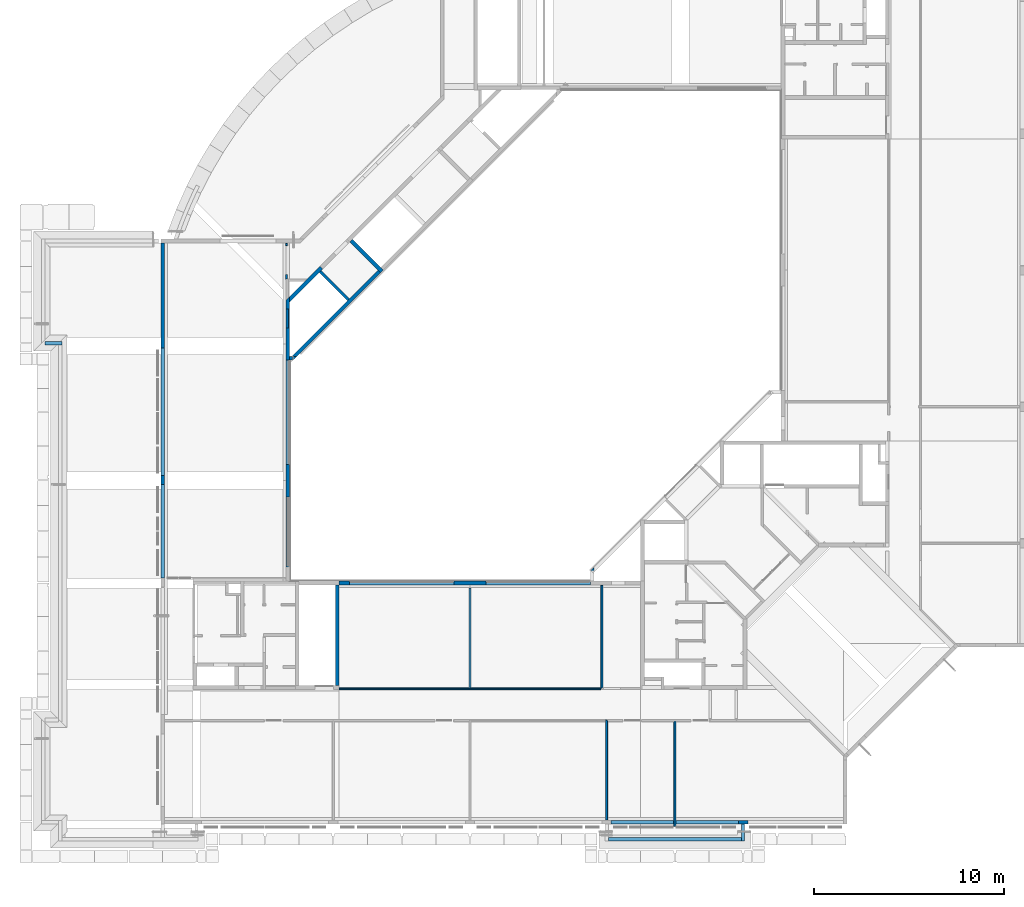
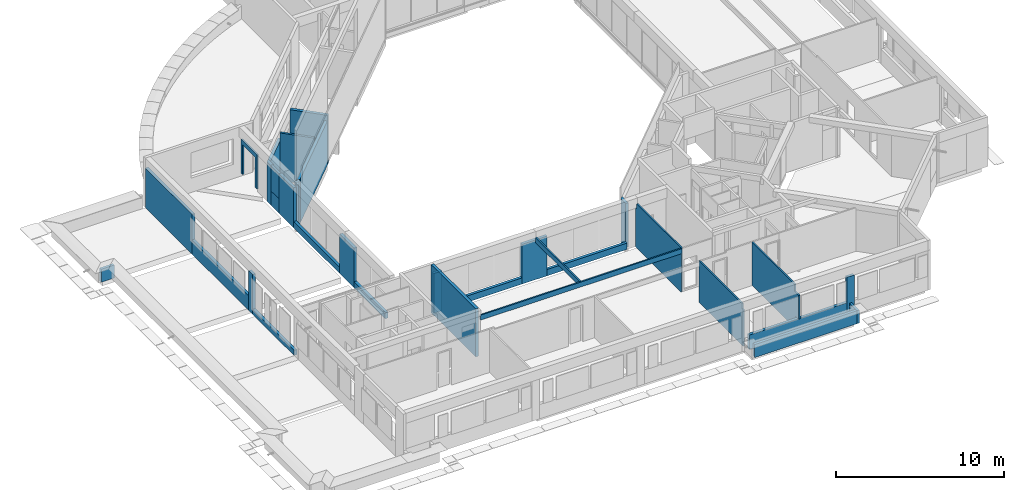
# One storey, part 11 of 38: 34 walls.
"""IFC4X3_ADD2 building model written with IfcOpenShell, lengths in millimetres."""

from ifc_helpers import new_model, si_unit, direction, frame, frame_2d, origin_with_axes, origin_2d_with_axis, place, context, subcontext, project, spatial, polyline, rectangle, outline, extrude, source, transform, mapped, material, type_object, type_shapes, element, save


model = new_model("IFC4X3_ADD2")

# Units and contexts
model_context = context("Model", 3, precision=1e-05, world=origin_with_axes(), true_north=direction((0.0, 1.0)))
body_context = subcontext(model_context, "Body", "Model", "MODEL_VIEW")
ifc_project = project(units=[si_unit("LENGTHUNIT", "METRE", prefix="MILLI"), si_unit("AREAUNIT", "SQUARE_METRE"), si_unit("VOLUMEUNIT", "CUBIC_METRE"), si_unit("PLANEANGLEUNIT", "RADIAN"), si_unit("TIMEUNIT", "SECOND"), si_unit("MASSUNIT", "GRAM")], contexts=[model_context])

# Site, building, storey
site_placement = place(None, origin_with_axes())
site = spatial("IfcSite", under=ifc_project, at=site_placement, Name="Site", CompositionType="ELEMENT")
building_placement = place(site_placement, origin_with_axes())
building = spatial("IfcBuilding", under=site, at=building_placement, Name="IFC Building Story")
storey_placement = place(building_placement, frame((0.0, 0.0, 10800.0), z_axis=(0.0, 0.0, 1.0), x_axis=(1.0, 0.0, 0.0)))
storey = spatial("IfcBuildingStorey", under=building, at=storey_placement, Name="030", Elevation=10800.0)

# Walls
ifc_material_1 = material(Name="BB_Beton_Bestaand")
wall_type_1 = type_object("IfcWallType", Name="BB_Beton_Bestaand 200", PredefinedType="NOTDEFINED", material=ifc_material_1)
wall_1_placement = place(storey_placement, origin_with_axes())
element("IfcWall", 1, at=wall_1_placement, inside=storey, type_object=wall_type_1, Name="Basic Wall:BB_XX_Wand uit beton, 200 mm", ObjectType="Basic Wall:BB_XX_Wand uit beton, 200 mm", PredefinedType="SOLIDWALL", context=body_context, shape_type="SweptSolid", body=[
    extrude(rectangle(XDim=5300.00406588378, YDim=200.0, at=frame_2d((0.0, 0.0), x_axis=(0.0, 1.0))), frame((-36100.0, 9850.002032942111, -80.0), z_axis=(0.0, 0.0, 1.0), x_axis=(1.0, 0.0, 0.0)), (0.0, 0.0, 1.0), 3480.0),
])
wall_2_placement = place(storey_placement, origin_with_axes())
element("IfcWall", 2, at=wall_2_placement, inside=storey, type_object=wall_type_1, Name="Basic Wall:BB_XX_Wand uit beton, 200 mm", ObjectType="Basic Wall:BB_XX_Wand uit beton, 200 mm", PredefinedType="SOLIDWALL", context=body_context, shape_type="SweptSolid", body=[
    extrude(rectangle(XDim=2299.999999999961, YDim=199.9999999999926, at=frame_2d((0.0, 0.0), x_axis=(0.707106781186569, -0.707106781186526))), frame((-34551.52543263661, 29835.12320212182, -200.0), z_axis=(0.0, 0.0, 1.0), x_axis=(1.0, 0.0, 0.0)), (0.0, 0.0, 1.0), 3600.0),
])
wall_3_placement = place(storey_placement, origin_with_axes())
element("IfcWall", 3, at=wall_3_placement, inside=storey, type_object=wall_type_1, Name="Basic Wall:BB_XX_Wand uit beton, 200 mm", ObjectType="Basic Wall:BB_XX_Wand uit beton, 200 mm", PredefinedType="SOLIDWALL", context=body_context, shape_type="SweptSolid", body=[
    extrude(outline(polyline([(-838.7978912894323, -697.3765350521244), (768.0872131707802, 909.5085694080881), (909.5085694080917, 768.0872131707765), (-838.7978912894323, -980.2192475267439), (-838.7978912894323, -697.3765350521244)])), frame((-37766.20210871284, 28388.21347901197, -200.0), z_axis=(0.0, 0.0, 1.0), x_axis=(1.0, 0.0, 0.0)), (0.0, 0.0, 1.0), 2880.0),
])
wall_type_2 = type_object("IfcWallType", Name="BB_Beton_Bestaand 190", PredefinedType="NOTDEFINED", material=ifc_material_1)
wall_4_placement = place(storey_placement, origin_with_axes())
element("IfcWall", 4, at=wall_4_placement, inside=storey, type_object=wall_type_2, Name="Basic Wall:BB_XX_Wand uit beton, 190 mm", ObjectType="Basic Wall:BB_XX_Wand uit beton, 190 mm", PredefinedType="SOLIDWALL", context=body_context, shape_type="SweptSolid", body=[
    extrude(rectangle(XDim=489.9999999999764, YDim=190.0, at=origin_2d_with_axis()), frame((-14700.00000000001, 0.0, -200.0), z_axis=(0.0, 0.0, 1.0), x_axis=(1.0, 0.0, 0.0)), (0.0, 0.0, 1.0), 2879.99999999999),
])
wall_5_placement = place(storey_placement, origin_with_axes())
element("IfcWall", 5, at=wall_5_placement, inside=storey, type_object=wall_type_2, Name="Basic Wall:BB_XX_Wand uit beton, 190 mm", ObjectType="Basic Wall:BB_XX_Wand uit beton, 190 mm", PredefinedType="SOLIDWALL", context=body_context, shape_type="SweptSolid", body=[
    extrude(rectangle(XDim=489.9999999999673, YDim=189.9999999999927, at=frame_2d((0.0, 0.0), x_axis=(0.0, 1.0))), frame((-45285.0, 18029.99999999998, -200.0), z_axis=(0.0, 0.0, 1.0), x_axis=(1.0, 0.0, 0.0)), (0.0, 0.0, 1.0), 2879.99999999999),
])
wall_6_placement = place(storey_placement, origin_with_axes())
element("IfcWall", 6, at=wall_6_placement, inside=storey, type_object=wall_type_2, Name="Basic Wall:BB_XX_Wand uit beton, 190 mm", ObjectType="Basic Wall:BB_XX_Wand uit beton, 190 mm", PredefinedType="SOLIDWALL", context=body_context, shape_type="SweptSolid", body=[
    extrude(rectangle(XDim=5550.000000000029, YDim=189.9999999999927, at=frame_2d((0.0, 0.0), x_axis=(0.0, 1.0))), frame((-45285.0, 27760.00000000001, -200.0), z_axis=(0.0, 0.0, 1.0), x_axis=(1.0, 0.0, 0.0)), (0.0, 0.0, 1.0), 2879.99999999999),
])
wall_7_placement = place(storey_placement, origin_with_axes())
element("IfcWall", 7, at=wall_7_placement, inside=storey, type_object=wall_type_2, Name="Basic Wall:BB_XX_Wand uit beton, 190 mm", ObjectType="Basic Wall:BB_XX_Wand uit beton, 190 mm", PredefinedType="SOLIDWALL", context=body_context, shape_type="SweptSolid", body=[
    extrude(rectangle(XDim=4909.99999999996, YDim=189.9999999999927, at=frame_2d((0.0, 0.0), x_axis=(0.0, 1.0))), frame((-45285.0, 15329.99999999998, -200.0), z_axis=(0.0, 0.0, 1.0), x_axis=(1.0, 0.0, 0.0)), (0.0, 0.0, 1.0), 370.000000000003),
])
wall_8_placement = place(storey_placement, origin_with_axes())
element("IfcWall", 8, at=wall_8_placement, inside=storey, type_object=wall_type_2, Name="Basic Wall:BB_XX_Wand uit beton, 190 mm", ObjectType="Basic Wall:BB_XX_Wand uit beton, 190 mm", PredefinedType="SOLIDWALL", context=body_context, shape_type="SweptSolid", body=[
    extrude(rectangle(XDim=6710.000000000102, YDim=189.9999999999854, at=frame_2d((0.0, 0.0), x_axis=(0.0, 1.0))), frame((-45285.0, 21630.00000000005, -200.0), z_axis=(0.0, 0.0, 1.0), x_axis=(1.0, 0.0, 0.0)), (0.0, 0.0, 1.0), 1040.0),
])
wall_9_placement = place(storey_placement, origin_with_axes())
element("IfcWall", 9, at=wall_9_placement, inside=storey, type_object=wall_type_2, Name="Basic Wall:BB_XX_Wand uit beton, 190 mm", ObjectType="Basic Wall:BB_XX_Wand uit beton, 190 mm", PredefinedType="SOLIDWALL", context=body_context, shape_type="SweptSolid", body=[
    extrude(rectangle(XDim=6710.000000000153, YDim=190.0, at=origin_2d_with_axis()), frame((-18300.00000000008, 0.0, -200.0), z_axis=(0.0, 0.0, 1.0), x_axis=(1.0, 0.0, 0.0)), (0.0, 0.0, 1.0), 1040.0),
])
wall_10_placement = place(storey_placement, origin_with_axes())
element("IfcWall", 10, at=wall_10_placement, inside=storey, type_object=wall_type_2, Name="Basic Wall:BB_XX_Wand uit beton, 190 mm", ObjectType="Basic Wall:BB_XX_Wand uit beton, 190 mm", PredefinedType="SOLIDWALL", context=body_context, shape_type="SweptSolid", body=[
    extrude(rectangle(XDim=1710.0, YDim=190.0, at=frame_2d((0.0, 0.0), x_axis=(0.0, 1.0))), frame((-38700.0, 18000.0, -200.0), z_axis=(0.0, 0.0, 1.0), x_axis=(1.0, 0.0, 0.0)), (0.0, 0.0, 1.0), 2880.0),
])
wall_11_placement = place(storey_placement, origin_with_axes())
element("IfcWall", 11, at=wall_11_placement, inside=storey, type_object=wall_type_2, Name="Basic Wall:BB_XX_Wand uit beton, 190 mm", ObjectType="Basic Wall:BB_XX_Wand uit beton, 190 mm", PredefinedType="SOLIDWALL", context=body_context, shape_type="SweptSolid", body=[
    extrude(rectangle(XDim=1710.0, YDim=190.0, at=frame_2d((0.0, 0.0), x_axis=(0.0, 1.0))), frame((-38700.0, 25200.0, -200.0), z_axis=(0.0, 0.0, 1.0), x_axis=(1.0, 0.0, 0.0)), (0.0, 0.0, 1.0), 2880.0),
])
wall_12_placement = place(storey_placement, origin_with_axes())
element("IfcWall", 12, at=wall_12_placement, inside=storey, type_object=wall_type_2, Name="Basic Wall:BB_XX_Wand uit beton, 190 mm", ObjectType="Basic Wall:BB_XX_Wand uit beton, 190 mm", PredefinedType="SOLIDWALL", context=body_context, shape_type="SweptSolid", body=[
    extrude(rectangle(XDim=990.0000000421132, YDim=190.0, at=frame_2d((0.0, 0.0), x_axis=(0.0, 1.0))), frame((-38700.0, 26549.99999997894, -200.0), z_axis=(0.0, 0.0, 1.0), x_axis=(1.0, 0.0, 0.0)), (0.0, 0.0, 1.0), 1040.0),
])
wall_13_placement = place(storey_placement, origin_with_axes())
element("IfcWall", 13, at=wall_13_placement, inside=storey, type_object=wall_type_2, Name="Basic Wall:BB_XX_Wand uit beton, 190 mm", ObjectType="Basic Wall:BB_XX_Wand uit beton, 190 mm", PredefinedType="SOLIDWALL", context=body_context, shape_type="SweptSolid", body=[
    extrude(outline(polyline([(-95.0, -275.4184719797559), (-95.0, 180.4184719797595), (95.0, 370.4184719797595), (95.0, -275.4184719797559), (-95.0, -275.4184719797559)])), frame((-38700.0, 27320.41847198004, -200.0), z_axis=(0.0, 0.0, 1.0), x_axis=(1.0, 0.0, 0.0)), (0.0, 0.0, 1.0), 2880.0),
])
wall_14_placement = place(storey_placement, origin_with_axes())
element("IfcWall", 14, at=wall_14_placement, inside=storey, type_object=wall_type_2, Name="Basic Wall:BB_XX_Wand uit beton, 190 mm", ObjectType="Basic Wall:BB_XX_Wand uit beton, 190 mm", PredefinedType="SOLIDWALL", context=body_context, shape_type="SweptSolid", body=[
    extrude(rectangle(XDim=554.9999999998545, YDim=190.0, at=origin_2d_with_axis()), frame((-35722.50000000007, 12600.004065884, -200.0), z_axis=(0.0, 0.0, 1.0), x_axis=(1.0, 0.0, 0.0)), (0.0, 0.0, 1.0), 2880.0),
])
wall_15_placement = place(storey_placement, origin_with_axes())
element("IfcWall", 15, at=wall_15_placement, inside=storey, type_object=wall_type_2, Name="Basic Wall:BB_XX_Wand uit beton, 190 mm", ObjectType="Basic Wall:BB_XX_Wand uit beton, 190 mm", PredefinedType="SOLIDWALL", context=body_context, shape_type="SweptSolid", body=[
    extrude(rectangle(XDim=1709.999999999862, YDim=190.0, at=origin_2d_with_axis()), frame((-29100.0, 12600.004065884, -200.0), z_axis=(0.0, 0.0, 1.0), x_axis=(1.0, 0.0, 0.0)), (0.0, 0.0, 1.0), 2880.0),
])
wall_16_placement = place(storey_placement, origin_with_axes())
element("IfcWall", 16, at=wall_16_placement, inside=storey, type_object=wall_type_2, Name="Basic Wall:BB_XX_Wand uit beton, 190 mm", ObjectType="Basic Wall:BB_XX_Wand uit beton, 190 mm", PredefinedType="SOLIDWALL", context=body_context, shape_type="SweptSolid", body=[
    extrude(rectangle(XDim=7010.0000000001, YDim=190.0, at=origin_2d_with_axis()), frame((-18299.99999999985, -900.0, -200.0), z_axis=(0.0, 0.0, 1.0), x_axis=(1.0, 0.0, 0.0)), (0.0, 0.0, 1.0), 940.000000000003),
])
wall_17_placement = place(storey_placement, origin_with_axes())
element("IfcWall", 17, at=wall_17_placement, inside=storey, type_object=wall_type_2, Name="Basic Wall:BB_XX_Wand uit beton, 190 mm", ObjectType="Basic Wall:BB_XX_Wand uit beton, 190 mm", PredefinedType="SOLIDWALL", context=body_context, shape_type="SweptSolid", body=[
    extrude(rectangle(XDim=3689.999999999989, YDim=190.0, at=frame_2d((0.0, 0.0), x_axis=(0.0, 1.0))), frame((-38700.0, 15300.00000000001, -200.0), z_axis=(0.0, 0.0, 1.0), x_axis=(1.0, 0.0, 0.0)), (0.0, 0.0, 1.0), 450.000000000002),
])
wall_18_placement = place(storey_placement, origin_with_axes())
element("IfcWall", 18, at=wall_18_placement, inside=storey, type_object=wall_type_2, Name="Basic Wall:BB_XX_Wand uit beton, 190 mm", ObjectType="Basic Wall:BB_XX_Wand uit beton, 190 mm", PredefinedType="SOLIDWALL", context=body_context, shape_type="SweptSolid", body=[
    extrude(rectangle(XDim=5489.999999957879, YDim=190.0, at=frame_2d((0.0, 0.0), x_axis=(0.0, 1.0))), frame((-38700.0, 21600.00000002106, -200.0), z_axis=(0.0, 0.0, 1.0), x_axis=(1.0, 0.0, 0.0)), (0.0, 0.0, 1.0), 450.000000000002),
])
wall_19_placement = place(storey_placement, origin_with_axes())
element("IfcWall", 19, at=wall_19_placement, inside=storey, type_object=wall_type_2, Name="Basic Wall:BB_XX_Wand uit beton, 190 mm", ObjectType="Basic Wall:BB_XX_Wand uit beton, 190 mm", PredefinedType="SOLIDWALL", context=body_context, shape_type="SweptSolid", body=[
    extrude(rectangle(XDim=5490.000000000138, YDim=190.0, at=origin_2d_with_axis()), frame((-25499.99999999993, 12600.004065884, -200.0), z_axis=(0.0, 0.0, 1.0), x_axis=(1.0, 0.0, 0.0)), (0.0, 0.0, 1.0), 450.000000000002),
])
wall_20_placement = place(storey_placement, origin_with_axes())
element("IfcWall", 20, at=wall_20_placement, inside=storey, type_object=wall_type_2, Name="Basic Wall:BB_XX_Wand uit beton, 190 mm", ObjectType="Basic Wall:BB_XX_Wand uit beton, 190 mm", PredefinedType="SOLIDWALL", context=body_context, shape_type="SweptSolid", body=[
    extrude(rectangle(XDim=5490.0, YDim=190.0, at=origin_2d_with_axis()), frame((-32700.0, 12600.004065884, -200.0), z_axis=(0.0, 0.0, 1.0), x_axis=(1.0, 0.0, 0.0)), (0.0, 0.0, 1.0), 450.000000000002),
])
wall_type_3 = type_object("IfcWallType", Name="BB_Beton_Bestaand 170", PredefinedType="NOTDEFINED", material=ifc_material_1)
wall_21_placement = place(storey_placement, origin_with_axes())
element("IfcWall", 21, at=wall_21_placement, inside=storey, type_object=wall_type_3, Name="Basic Wall:BB_XX_Wand uit beton, 170 mm", ObjectType="Basic Wall:BB_XX_Wand uit beton, 170 mm", PredefinedType="SOLIDWALL", context=body_context, shape_type="SweptSolid", body=[
    extrude(rectangle(XDim=900.000000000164, YDim=170.0, at=frame_2d((0.0, 0.0), x_axis=(0.0, 1.0))), frame((-14710.0, -545.0000000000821, -200.0), z_axis=(0.0, 0.0, 1.0), x_axis=(1.0, 0.0, 0.0)), (0.0, 0.0, 1.0), 940.000000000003),
])
ifc_material_2 = material(Name="BB_Metselwerk_Betonsteen")
wall_type_4 = type_object("IfcWallType", Name="BB_Metselwerk_Betonsteen 190", PredefinedType="NOTDEFINED", material=ifc_material_2)
wall_22_placement = place(storey_placement, origin_with_axes())
element("IfcWall", 22, at=wall_22_placement, inside=storey, type_object=wall_type_4, Name="Basic Wall:BB_03.09.24#03_Wand uit metselwerk, 190 mm", ObjectType="Basic Wall:BB_03.09.24#03_Wand uit metselwerk, 190 mm", PredefinedType="SOLIDWALL", context=body_context, shape_type="SweptSolid", body=[
    extrude(rectangle(XDim=899.9999999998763, YDim=190.0, at=origin_2d_with_axis()), frame((-51055.00000000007, 25250.0, -200.0), z_axis=(0.0, 0.0, 1.0), x_axis=(1.0, 0.0, 0.0)), (0.0, 0.0, 1.0), 940.000000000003),
])
wall_23_placement = place(storey_placement, origin_with_axes())
element("IfcWall", 23, at=wall_23_placement, inside=storey, type_object=wall_type_4, Name="Basic Wall:BB_03.09.24#03_Wand uit metselwerk, 190 mm", ObjectType="Basic Wall:BB_03.09.24#03_Wand uit metselwerk, 190 mm", PredefinedType="SOLIDWALL", context=body_context, shape_type="SweptSolid", body=[
    extrude(outline(polyline([(95.0, 424.8958182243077), (95.0, -329.8958182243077), (-95.0, -329.8958182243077), (-95.0, 234.8958182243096), (95.0, 424.8958182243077)])), frame((-22649.8526351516, 13024.89988410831, -200.0), z_axis=(0.0, 0.0, 1.0), x_axis=(1.0, 0.0, 0.0)), (0.0, 0.0, 1.0), 3199.99999975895),
])
wall_24_placement = place(storey_placement, origin_with_axes())
element("IfcWall", 24, at=wall_24_placement, inside=storey, type_object=wall_type_4, Name="Basic Wall:BB_03.09.24#05_Wand uit metselwerk_EI60, 190 mm", ObjectType="Basic Wall:BB_03.09.24#05_Wand uit metselwerk_EI60, 190 mm", PredefinedType="SOLIDWALL", context=body_context, shape_type="SweptSolid", body=[
    extrude(outline(polyline([(2303.882579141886, 2169.532290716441), (-2102.357146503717, -2236.707434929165), (-2371.057723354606, -2236.707434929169), (2169.532290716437, 2303.882579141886), (2303.882579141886, 2169.532290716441)])), frame((-36112.94589153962, 26781.70743492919, -200.0), z_axis=(0.0, 0.0, 1.0), x_axis=(1.0, 0.0, 0.0)), (0.0, 0.0, 1.0), 3200.0),
])
wall_type_5 = type_object("IfcWallType", Name="BB_Metselwerk_Betonsteen 0", PredefinedType="NOTDEFINED", material=ifc_material_2)
wall_25_placement = place(storey_placement, origin_with_axes())
element("IfcWall", 25, at=wall_25_placement, inside=storey, type_object=wall_type_5, Name="Basic Wall:BB_03.09.24#05_Wand uit metselwerk_EI60, 190 mm", ObjectType="Basic Wall:BB_03.09.24#05_Wand uit metselwerk_EI60, 190 mm", PredefinedType="SOLIDWALL", context=body_context, shape_type="SweptSolid", body=[
    extrude(outline(polyline([(-147.3484809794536, 95.0), (242.3484809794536, 95.0), (52.3484809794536, -95.0), (-147.3484809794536, -95.0), (-147.3484809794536, 95.0)])), frame((-38457.65151902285, 24450.0, -200.0), z_axis=(0.0, 0.0, 1.0), x_axis=(1.0, 0.0, 0.0)), (0.0, 0.0, 1.0), 3200.0),
])
wall_type_6 = type_object("IfcWallType", Name="Basic Wall_BB_10.01.41#21_Gipskartonwand_EI60_43dB_MS100 _ 25.50.25_ 100 mm77", PredefinedType="NOTDEFINED")
shared_shape_1 = source(origin_with_axes(), body_context, "Body", "SweptSolid", [
    extrude(outline(polyline([(-3250.002439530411, 1722.243629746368), (-3162.502439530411, 1722.243629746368), (-3162.502439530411, 1788.189092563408), (2232.501626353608, 1788.189092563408), (2232.501626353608, -1046.810907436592), (2082.501626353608, -1046.810907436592), (2082.501626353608, -1051.810907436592), (2097.501626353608, -1051.810907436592), (2097.501626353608, -1411.810907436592), (-3250.002439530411, -1411.810907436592), (-3250.002439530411, 1722.243629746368)])), frame((3162.502439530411, 37.49999999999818, 1788.189092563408), z_axis=(0.0, 1.0, 0.0), x_axis=(1.0, 0.0, 0.0)), (0.0, 0.0, 1.0), 12.50000000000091),
    extrude(outline(polyline([(-3240.002439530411, 1722.243629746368), (-3165.002439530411, 1722.243629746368), (-3165.002439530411, 1788.189092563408), (2230.001626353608, 1788.189092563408), (2230.001626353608, -1046.810907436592), (2080.001626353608, -1046.810907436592), (2080.001626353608, -1051.810907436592), (2095.001626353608, -1051.810907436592), (2095.001626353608, -1411.810907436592), (-3240.002439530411, -1411.810907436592), (-3240.002439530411, 1722.243629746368)])), frame((3165.002439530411, 24.99999999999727, 1788.189092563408), z_axis=(0.0, 1.0, 0.0), x_axis=(1.0, 0.0, 0.0)), (0.0, 0.0, 1.0), 12.50000000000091),
    extrude(outline(polyline([(-3202.002439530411, 1722.243629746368), (-3177.002439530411, 1722.243629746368), (-3177.002439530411, 1788.189092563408), (2218.001626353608, 1788.189092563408), (2218.001626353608, -1046.810907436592), (2068.001626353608, -1046.810907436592), (2068.001626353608, -1051.810907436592), (2093.001626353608, -1051.810907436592), (2093.001626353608, -1411.810907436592), (-3202.002439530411, -1411.810907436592), (-3202.002439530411, 1722.243629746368)])), frame((3177.002439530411, -24.99999999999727, 1788.189092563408), z_axis=(0.0, 1.0, 0.0), x_axis=(1.0, 0.0, 0.0)), (0.0, 0.0, 1.0), 49.99999999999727),
    extrude(outline(polyline([(-3190.002439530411, 1722.243629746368), (-3177.502439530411, 1722.243629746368), (-3177.502439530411, 1788.189092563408), (2217.501626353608, 1788.189092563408), (2217.501626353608, -1046.810907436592), (2067.501626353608, -1046.810907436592), (2067.501626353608, -1051.810907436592), (2082.501626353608, -1051.810907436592), (2082.501626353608, -1411.810907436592), (-3190.002439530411, -1411.810907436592), (-3190.002439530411, 1722.243629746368)])), frame((3177.502439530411, -37.50000000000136, 1788.189092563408), z_axis=(0.0, 1.0, 0.0), x_axis=(1.0, 0.0, 0.0)), (0.0, 0.0, 1.0), 12.50000000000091),
    extrude(outline(polyline([(1285.001016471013, -981.2499999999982), (-3975.003049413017, -981.2499999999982), (-3975.003049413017, 2218.750000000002), (1420.001016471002, 2218.750000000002), (1420.001016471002, -616.2500000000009), (1270.001016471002, -616.2500000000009), (1270.001016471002, -621.2500000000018), (1285.001016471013, -621.2500000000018), (1285.001016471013, -981.2499999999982)])), frame((3975.003049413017, -49.99999999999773, 2218.750000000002), z_axis=(0.0, 1.0, 0.0), x_axis=(1.0, 0.0, 0.0)), (0.0, 0.0, 1.0), 12.49999999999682),
])
type_shapes(wall_type_6, [shared_shape_1])
wall_26_placement = place(storey_placement, frame((-22150.0, 7085.0, -200.0), z_axis=(0.0, 0.0, 1.0), x_axis=(0.0, 1.0, 0.0)))
element("IfcWall", 26, at=wall_26_placement, inside=storey, type_object=wall_type_6, Name="Basic Wall:BB_10.01.41#21_Gipskartonwand_EI60_43dB_MS100 / 25.50.25, 100 mm", ObjectType="Basic Wall:BB_10.01.41#21_Gipskartonwand_EI60_43dB_MS100 / 25.50.25, 100 mm", PredefinedType="PARTITIONING", context=body_context, shape_type="MappedRepresentation", body=[
    mapped(shared_shape_1, transform((0.0, 0.0, 0.0))),
])
wall_type_7 = type_object("IfcWallType", Name="Basic Wall_BB_10.01.41#03_Gipskartonwand_43dB_MS100 _ 25.50.25_ 100 mm69", PredefinedType="NOTDEFINED")
shared_shape_2 = source(origin_with_axes(), body_context, "Body", "SweptSolid", [
    extrude(outline(polyline([(786.5000000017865, 1163.75), (916.4999999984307, 1163.75), (916.4999999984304, -1326.25), (-969.5000000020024, -1326.25), (-969.5000000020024, 1163.75), (-733.4999999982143, 1163.75), (-733.4999999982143, -1001.25), (786.5000000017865, -1001.25), (786.5000000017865, 1163.75)])), frame((969.5000000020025, 37.50000000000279, 1163.75), z_axis=(0.0, 1.0, 0.0), x_axis=(1.0, 0.0, 0.0)), (0.0, 0.0, 1.0), 12.49999999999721),
    extrude(outline(polyline([(786.5000000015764, -1001.25), (786.5000000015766, 1163.75), (916.4999999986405, 1163.75), (916.4999999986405, -1326.25), (-969.5000000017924, -1326.25), (-969.5000000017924, 1163.75), (-733.4999999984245, 1163.75), (-733.4999999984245, -1001.25), (786.5000000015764, -1001.25)])), frame((969.5000000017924, 25.000000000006, 1163.75), z_axis=(0.0, 1.0, 0.0), x_axis=(1.0, 0.0, 0.0)), (0.0, 0.0, 1.0), 12.5000000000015),
    extrude(outline(polyline([(786.5000000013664, -1001.250000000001), (786.5000000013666, 1163.749999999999), (916.4999999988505, 1163.749999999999), (916.4999999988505, -1326.250000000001), (-969.5000000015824, -1326.249999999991), (-969.5000000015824, 1163.749999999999), (-733.4999999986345, 1163.749999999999), (-733.4999999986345, -1001.250000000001), (786.5000000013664, -1001.250000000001)])), frame((969.5000000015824, -25.0000000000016, 1163.749999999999), z_axis=(0.0, 1.0, 0.0), x_axis=(1.0, 0.0, 0.0)), (0.0, 0.0, 1.0), 50.00000000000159),
    extrude(outline(polyline([(786.5000000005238, -1001.25), (786.500000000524, 1163.75), (916.4999999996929, 1163.75), (916.4999999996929, -1326.25), (-969.5000000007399, -1326.25), (-969.5000000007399, 1163.75), (-733.4999999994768, 1163.75), (-733.499999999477, -1001.25), (786.5000000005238, -1001.25)])), frame((969.50000000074, -37.5000000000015, 1163.75), z_axis=(0.0, 1.0, 0.0), x_axis=(1.0, 0.0, 0.0)), (0.0, 0.0, 1.0), 12.5000000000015),
    extrude(outline(polyline([(786.500000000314, -1001.25), (786.500000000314, 1163.75), (916.4999999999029, 1163.75), (916.4999999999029, -1326.25), (-969.50000000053, -1326.25), (-969.50000000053, 1163.75), (-733.4999999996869, 1163.75), (-733.4999999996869, -1001.25), (786.500000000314, -1001.25)])), frame((969.50000000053, -49.99999999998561, 1163.75), z_axis=(0.0, 1.0, 0.0), x_axis=(1.0, 0.0, 0.0)), (0.0, 0.0, 1.0), 12.49999999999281),
])
type_shapes(wall_type_7, [shared_shape_2])
wall_27_placement = place(storey_placement, frame((-38770.0, 28624.0, 0.0), z_axis=(0.0, 0.0, 1.0), x_axis=(0.0, 1.0, 0.0)))
element("IfcWall", 27, at=wall_27_placement, inside=storey, type_object=wall_type_7, Name="Basic Wall:BB_10.01.41#03_Gipskartonwand_43dB_MS100 / 25.50.25, 100 mm", ObjectType="Basic Wall:BB_10.01.41#03_Gipskartonwand_43dB_MS100 / 25.50.25, 100 mm", PredefinedType="PARTITIONING", context=body_context, shape_type="MappedRepresentation", body=[
    mapped(shared_shape_2, transform((0.0, 0.0, 0.0))),
])
wall_type_8 = type_object("IfcWallType", Name="Basic Wall_BB_10.01.41#03_Gipskartonwand_43dB_MS100 _ 25.50.25_ 100 mm73", PredefinedType="NOTDEFINED")
shared_shape_3 = source(origin_with_axes(), body_context, "Body", "SweptSolid", [
    extrude(outline(polyline([(-3410.000000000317, 1876.666666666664), (1782.499999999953, 1876.666666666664), (1782.499999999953, -753.3333333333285), (1627.500000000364, -753.3333333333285), (1627.500000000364, -1123.333333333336), (-3410.000000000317, -1123.333333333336), (-3410.000000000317, 1876.666666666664)])), frame((3497.500000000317, 37.50000000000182, 1876.666666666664), z_axis=(0.0, 1.0, 0.0), x_axis=(1.0, 0.0, 0.0)), (0.0, 0.0, 1.0), 12.5),
    extrude(outline(polyline([(-3418.33333333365, 1876.666666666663), (1786.666666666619, 1876.666666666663), (1786.666666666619, -753.3333333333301), (1631.66666666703, -753.3333333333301), (1631.66666666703, -1123.333333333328), (-3418.33333333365, -1123.333333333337), (-3418.33333333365, 1876.666666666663)])), frame((3493.33333333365, 25.0, 1876.666666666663), z_axis=(0.0, 1.0, 0.0), x_axis=(1.0, 0.0, 0.0)), (0.0, 0.0, 1.0), 12.50000000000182),
    extrude(outline(polyline([(-3451.666666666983, 1876.666666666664), (1803.333333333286, 1876.666666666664), (1803.333333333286, -753.3333333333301), (1648.333333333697, -753.3333333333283), (1648.333333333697, -1123.333333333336), (-3451.666666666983, -1123.333333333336), (-3451.666666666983, 1876.666666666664)])), frame((3476.666666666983, -25.0, 1876.666666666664), z_axis=(0.0, 1.0, 0.0), x_axis=(1.0, 0.0, 0.0)), (0.0, 0.0, 1.0), 49.99999999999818),
    extrude(outline(polyline([(-3460.000000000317, 1876.666666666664), (1807.499999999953, 1876.666666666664), (1807.499999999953, -753.3333333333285), (1652.500000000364, -753.3333333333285), (1652.500000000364, -1123.333333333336), (-3460.000000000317, -1123.333333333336), (-3460.000000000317, 1876.666666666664)])), frame((3472.500000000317, -37.49999999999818, 1876.666666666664), z_axis=(0.0, 1.0, 0.0), x_axis=(1.0, 0.0, 0.0)), (0.0, 0.0, 1.0), 12.5),
    extrude(outline(polyline([(-3468.33333333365, 1876.666666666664), (1811.666666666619, 1876.666666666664), (1811.666666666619, -753.3333333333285), (1656.66666666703, -753.3333333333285), (1656.66666666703, -1123.333333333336), (-3468.33333333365, -1123.333333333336), (-3468.33333333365, 1876.666666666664)])), frame((3468.33333333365, -50.0, 1876.666666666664), z_axis=(0.0, 1.0, 0.0), x_axis=(1.0, 0.0, 0.0)), (0.0, 0.0, 1.0), 12.49999999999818),
])
type_shapes(wall_type_8, [shared_shape_3])
wall_28_placement = place(storey_placement, frame((-21900.0, 5400.0, 0.0), z_axis=(0.0, 0.0, 1.0), x_axis=(0.0, -1.0, 0.0)))
element("IfcWall", 28, at=wall_28_placement, inside=storey, type_object=wall_type_8, Name="Basic Wall:BB_10.01.41#03_Gipskartonwand_43dB_MS100 / 25.50.25, 100 mm", ObjectType="Basic Wall:BB_10.01.41#03_Gipskartonwand_43dB_MS100 / 25.50.25, 100 mm", PredefinedType="PARTITIONING", context=body_context, shape_type="MappedRepresentation", body=[
    mapped(shared_shape_3, transform((0.0, 0.0, 0.0))),
])
wall_type_9 = type_object("IfcWallType", Name="Basic Wall_BB_10.01.41#03_Gipskartonwand_43dB_MS100 _ 25.50.25_ 100 mm75", PredefinedType="NOTDEFINED")
shared_shape_4 = source(origin_with_axes(), body_context, "Body", "SweptSolid", [
    extrude(outline(polyline([(-3931.25000000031, 1668.749999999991), (1243.75000000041, 1668.749999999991), (1243.75000000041, 763.7500000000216), (1593.749999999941, 763.7500000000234), (1593.749999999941, -961.2500000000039), (1093.749999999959, -961.2500000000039), (1093.749999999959, -1471.250000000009), (-3931.25000000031, -1471.250000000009), (-3931.25000000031, 1668.749999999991)])), frame((3931.25000000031, 37.50000000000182, 1668.749999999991), z_axis=(0.0, 1.0, 0.0), x_axis=(1.0, 0.0, 0.0)), (0.0, 0.0, 1.0), 12.5),
    extrude(outline(polyline([(-3940.62500000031, 1668.74999999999), (1246.87500000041, 1668.74999999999), (1246.87500000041, 763.7500000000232), (1596.874999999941, 763.7500000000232), (1596.874999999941, -961.2500000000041), (1096.874999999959, -961.2500000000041), (1096.874999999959, -1471.25000000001), (-3940.62500000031, -1471.25000000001), (-3940.62500000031, 1668.74999999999)])), frame((3928.12500000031, 25.0, 1668.74999999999), z_axis=(0.0, 1.0, 0.0), x_axis=(1.0, 0.0, 0.0)), (0.0, 0.0, 1.0), 12.5),
    extrude(outline(polyline([(-3950.00000000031, 1668.749999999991), (1250.000000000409, 1668.749999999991), (1250.000000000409, 763.7500000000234), (1599.99999999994, 763.7500000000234), (1599.99999999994, -961.2500000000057), (1099.99999999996, -961.2500000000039), (1099.99999999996, -1471.250000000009), (-3950.00000000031, -1471.250000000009), (-3950.00000000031, 1668.749999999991)])), frame((3925.0, -25.0, 1668.749999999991), z_axis=(0.0, 1.0, 0.0), x_axis=(1.0, 0.0, 0.0)), (0.0, 0.0, 1.0), 50.00000000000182),
    extrude(outline(polyline([(-3931.25000000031, 1668.749999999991), (1243.75000000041, 1668.749999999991), (1243.75000000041, 763.7500000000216), (1593.749999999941, 763.7500000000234), (1593.749999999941, -961.2500000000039), (1093.749999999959, -961.2500000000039), (1093.749999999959, -1471.250000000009), (-3931.25000000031, -1471.250000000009), (-3931.25000000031, 1668.749999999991)])), frame((3931.25000000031, -37.49999999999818, 1668.74999999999), z_axis=(0.0, 1.0, 0.0), x_axis=(1.0, 0.0, 0.0)), (0.0, 0.0, 1.0), 12.5),
    extrude(outline(polyline([(-3931.25000000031, 1668.749999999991), (1243.75000000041, 1668.749999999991), (1243.75000000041, 763.7500000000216), (1593.749999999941, 763.7500000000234), (1593.749999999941, -961.2500000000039), (1093.749999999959, -961.2500000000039), (1093.749999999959, -1471.250000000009), (-3931.25000000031, -1471.250000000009), (-3931.25000000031, 1668.749999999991)])), frame((3931.25000000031, -50.0, 1668.74999999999), z_axis=(0.0, 1.0, 0.0), x_axis=(1.0, 0.0, 0.0)), (0.0, 0.0, 1.0), 12.5),
])
type_shapes(wall_type_9, [shared_shape_4])
wall_29_placement = place(storey_placement, frame((-18300.0, 5300.0, 0.0), z_axis=(0.0, 0.0, 1.0), x_axis=(0.0, -1.0, 0.0)))
element("IfcWall", 29, at=wall_29_placement, inside=storey, type_object=wall_type_9, Name="Basic Wall:BB_10.01.41#03_Gipskartonwand_43dB_MS100 / 25.50.25, 100 mm", ObjectType="Basic Wall:BB_10.01.41#03_Gipskartonwand_43dB_MS100 / 25.50.25, 100 mm", PredefinedType="PARTITIONING", context=body_context, shape_type="MappedRepresentation", body=[
    mapped(shared_shape_4, transform((0.0, 0.0, 0.0))),
])
wall_type_10 = type_object("IfcWallType", Name="Basic Wall_BB_10.01.41#01_Gipskartonwand_MS100 _ 25.50.25_ 100 mm141", PredefinedType="NOTDEFINED")
shared_shape_5 = source(origin_with_axes(), body_context, "Body", "SweptSolid", [
    extrude(rectangle(XDim=13800.00000000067, YDim=12.49999999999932, at=origin_2d_with_axis()), frame((6900.0, 43.7499999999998, 0.0), z_axis=(0.0, 0.0, 1.0), x_axis=(1.0, 0.0, 0.0)), (0.0, 0.0, 1.0), 359.999999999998),
    extrude(rectangle(XDim=13800.00000000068, YDim=12.50000000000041, at=origin_2d_with_axis()), frame((6899.999999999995, 31.2500000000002, 0.0), z_axis=(0.0, 0.0, 1.0), x_axis=(1.0, 0.0, 0.0)), (0.0, 0.0, 1.0), 359.999999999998),
    extrude(rectangle(XDim=13800.00000000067, YDim=49.9999999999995, at=origin_2d_with_axis()), frame((6900.0, 0.0, 0.0), z_axis=(0.0, 0.0, 1.0), x_axis=(1.0, 0.0, 0.0)), (0.0, 0.0, 1.0), 359.999999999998),
    extrude(rectangle(XDim=13800.00000000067, YDim=12.5000000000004, at=origin_2d_with_axis()), frame((6900.000000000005, -31.2499999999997, 0.0), z_axis=(0.0, 0.0, 1.0), x_axis=(1.0, 0.0, 0.0)), (0.0, 0.0, 1.0), 359.999999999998),
    extrude(rectangle(XDim=13800.00000000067, YDim=12.50000000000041, at=origin_2d_with_axis()), frame((6900.0, -43.75000000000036, 0.0), z_axis=(0.0, 0.0, 1.0), x_axis=(1.0, 0.0, 0.0)), (0.0, 0.0, 1.0), 359.999999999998),
])
type_shapes(wall_type_10, [shared_shape_5])
wall_30_placement = place(storey_placement, frame((-22200.0, 7035.0, 2640.0), z_axis=(0.0, 0.0, 1.0), x_axis=(-1.0, 0.0, 0.0)))
element("IfcWall", 30, at=wall_30_placement, inside=storey, type_object=wall_type_10, Name="Basic Wall:BB_10.01.41#01_Gipskartonwand_MS100 / 25.50.25, 100 mm", ObjectType="Basic Wall:BB_10.01.41#01_Gipskartonwand_MS100 / 25.50.25, 100 mm", PredefinedType="PARTITIONING", context=body_context, shape_type="MappedRepresentation", body=[
    mapped(shared_shape_5, transform((0.0, 0.0, 0.0))),
])
wall_type_11 = type_object("IfcWallType", Name="Basic Wall_BB_10.01.41#01_Gipskartonwand_MS100 _ 25.50.25_ 100 mm143", PredefinedType="NOTDEFINED")
shared_shape_6 = source(origin_with_axes(), body_context, "Body", "SweptSolid", [
    extrude(rectangle(XDim=5245.0, YDim=12.50000000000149, at=origin_2d_with_axis()), frame((2622.5, 43.75000000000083, 0.0), z_axis=(0.0, 0.0, 1.0), x_axis=(1.0, 0.0, 0.0)), (0.0, 0.0, 1.0), 359.999999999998),
    extrude(rectangle(XDim=5257.5, YDim=12.50000000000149, at=origin_2d_with_axis()), frame((2628.75, 31.24999999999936, 0.0), z_axis=(0.0, 0.0, 1.0), x_axis=(1.0, 0.0, 0.0)), (0.0, 0.0, 1.0), 359.999999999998),
    extrude(rectangle(XDim=5270.0, YDim=49.9999999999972, at=origin_2d_with_axis()), frame((2635.0, 0.0, 0.0), z_axis=(0.0, 0.0, 1.0), x_axis=(1.0, 0.0, 0.0)), (0.0, 0.0, 1.0), 359.999999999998),
    extrude(rectangle(XDim=5245.0, YDim=12.50000000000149, at=origin_2d_with_axis()), frame((2622.5, -31.24999999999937, 0.0), z_axis=(0.0, 0.0, 1.0), x_axis=(1.0, 0.0, 0.0)), (0.0, 0.0, 1.0), 359.999999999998),
    extrude(rectangle(XDim=5245.0, YDim=12.49999999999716, at=origin_2d_with_axis()), frame((2622.5, -43.74999999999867, 0.0), z_axis=(0.0, 0.0, 1.0), x_axis=(1.0, 0.0, 0.0)), (0.0, 0.0, 1.0), 359.999999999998),
])
type_shapes(wall_type_11, [shared_shape_6])
wall_31_placement = place(storey_placement, frame((-29100.0, 12330.0, 2640.0), z_axis=(0.0, 0.0, 1.0), x_axis=(0.0, -1.0, 0.0)))
element("IfcWall", 31, at=wall_31_placement, inside=storey, type_object=wall_type_11, Name="Basic Wall:BB_10.01.41#01_Gipskartonwand_MS100 / 25.50.25, 100 mm", ObjectType="Basic Wall:BB_10.01.41#01_Gipskartonwand_MS100 / 25.50.25, 100 mm", PredefinedType="PARTITIONING", context=body_context, shape_type="MappedRepresentation", body=[
    mapped(shared_shape_6, transform((0.0, 0.0, 0.0))),
])
wall_type_12 = type_object("IfcWallType", Name="BB_Metselwerk_Betonsteen 140", PredefinedType="NOTDEFINED", material=ifc_material_2)
wall_32_placement = place(storey_placement, origin_with_axes())
element("IfcWall", 32, at=wall_32_placement, inside=storey, type_object=wall_type_12, Name="Basic Wall:BB_03.09.24#02_Wand uit metselwerk_EI60_43dB, 140 mm", ObjectType="Basic Wall:BB_03.09.24#02_Wand uit metselwerk_EI60_43dB, 140 mm", PredefinedType="SOLIDWALL", context=body_context, shape_type="SweptSolid", body=[
    extrude(rectangle(XDim=990.0000000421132, YDim=140.0, at=frame_2d((0.0, 0.0), x_axis=(0.0, 1.0))), frame((-38725.0, 26550.00000002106, 840.0), z_axis=(0.0, 0.0, 1.0), x_axis=(1.0, 0.0, 0.0)), (0.0, 0.0, 1.0), 1840.0),
])
wall_33_placement = place(storey_placement, origin_with_axes())
element("IfcWall", 33, at=wall_33_placement, inside=storey, type_object=wall_type_12, Name="Basic Wall:BB_03.09.24#02_Wand uit metselwerk_EI60_43dB, 140 mm", ObjectType="Basic Wall:BB_03.09.24#02_Wand uit metselwerk_EI60_43dB, 140 mm", PredefinedType="SOLIDWALL", context=body_context, shape_type="SweptSolid", body=[
    extrude(rectangle(XDim=2110.02661785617, YDim=140.0000000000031, at=frame_2d((0.0, 0.0), x_axis=(-0.7071067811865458, 0.7071067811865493))), frame((-36245.0367627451, 28275.94333877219, -200.0), z_axis=(0.0, 0.0, 1.0), x_axis=(1.0, 0.0, 0.0)), (0.0, 0.0, 1.0), 3450.0),
])
wall_type_13 = type_object("IfcWallType", Name="BB_Metselwerk_Betonsteen 160.347", PredefinedType="NOTDEFINED", material=ifc_material_2)
wall_34_placement = place(storey_placement, origin_with_axes())
element("IfcWall", 34, at=wall_34_placement, inside=storey, type_object=wall_type_13, Name="Basic Wall:BB_03.09.24#05_Wand uit metselwerk_EI60, 190 mm", ObjectType="Basic Wall:BB_03.09.24#05_Wand uit metselwerk_EI60, 190 mm", PredefinedType="SOLIDWALL", context=body_context, shape_type="SweptSolid", body=[
    extrude(rectangle(XDim=190.0, YDim=160.3466735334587, at=frame_2d((0.0, 0.0), x_axis=(0.0, 1.0))), frame((-38524.82666323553, 24450.0, -200.0), z_axis=(0.0, 0.0, 1.0), x_axis=(1.0, 0.0, 0.0)), (0.0, 0.0, 1.0), 3000.0),
])

save(model, "model.ifc")
